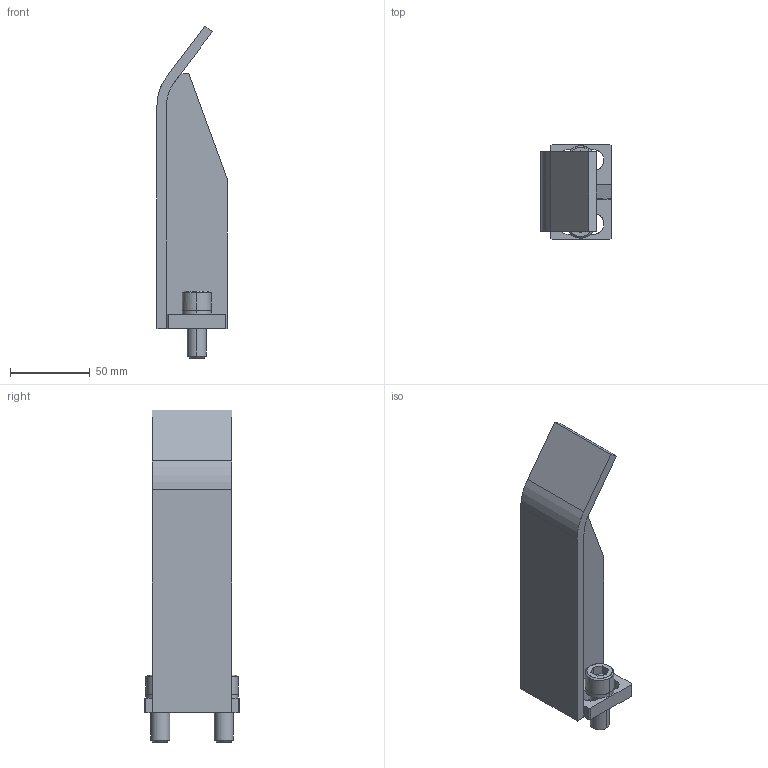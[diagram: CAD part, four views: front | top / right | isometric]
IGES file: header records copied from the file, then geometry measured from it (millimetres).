
Global section: file name: E:\UnigraphicsGraphicData\MISUMI_PRESS-PARTS\IGES\3d_nstfa-150-m12_01630_r00.igs; native system: NX V5.0; preprocessor: UGS NX IGES V5.0; author: MISUMI; date: 20110105.162129; units: millimetre
Bounding box: 44 x 60 x 208.5 mm (x, y, z)
Surface area: 43495.8 mm2 (no closed solid volume)
Topology: 0 solids, 0 shells, 83 faces, 516 edges, 516 vertices
Faces by surface type: bspline 83
